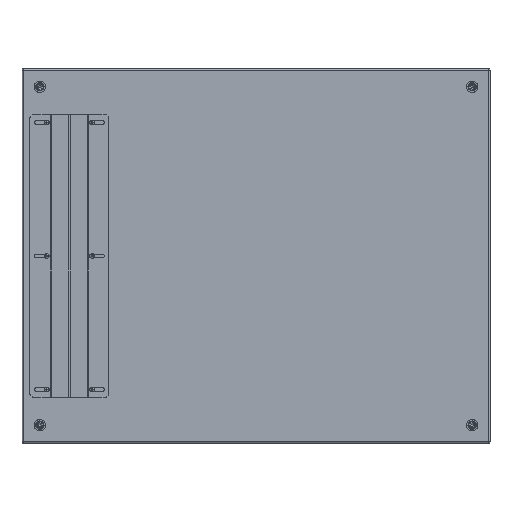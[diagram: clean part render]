
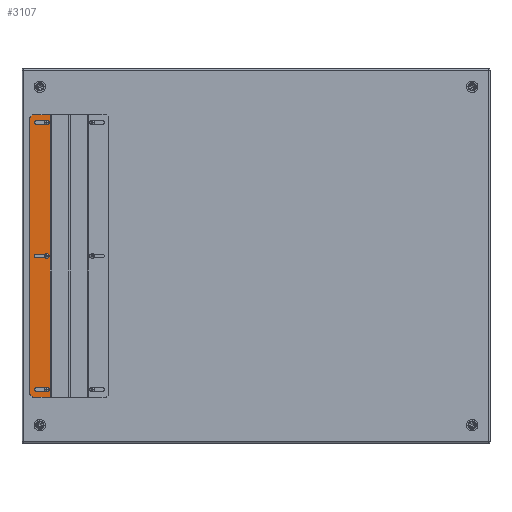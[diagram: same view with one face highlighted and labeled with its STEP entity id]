
A CAD part, top view. The second image highlights one B-rep face of the part: STEP entity #3107.
In plain terms, the highlighted planar face has unit normal (0, 0, 1).
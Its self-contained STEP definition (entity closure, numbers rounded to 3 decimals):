
#3107=ADVANCED_FACE('',(#19048,#19050,#19052,#19054),#19056,.T.);
#19048=FACE_BOUND('',#19049,.T.);
#19049=EDGE_LOOP('',(#27985,#27986,#27987,#27988,#27989,#27990,#27991,#27992,#27993,
#27994));
#19050=FACE_BOUND('',#19051,.T.);
#19051=EDGE_LOOP('',(#27995,#27996,#27997,#27998));
#19052=FACE_BOUND('',#19053,.T.);
#19053=EDGE_LOOP('',(#27999,#28000,#28001,#28002));
#19054=FACE_BOUND('',#19055,.T.);
#19055=EDGE_LOOP('',(#28003,#28004,#28005,#28006));
#19056=PLANE('',#19057);
#19057=AXIS2_PLACEMENT_3D('',#19058,#19059,#19060);
#19058=CARTESIAN_POINT('',(-2.8,301.,0.));
#19059=DIRECTION('',(0.,0.,1.));
#19060=DIRECTION('',(-1.,0.,0.));
#27985=ORIENTED_EDGE('',*,*,#32503,.F.);
#27986=ORIENTED_EDGE('',*,*,#32504,.T.);
#27987=ORIENTED_EDGE('',*,*,#32505,.F.);
#27988=ORIENTED_EDGE('',*,*,#32506,.F.);
#27989=ORIENTED_EDGE('',*,*,#32507,.F.);
#27990=ORIENTED_EDGE('',*,*,#32508,.F.);
#27991=ORIENTED_EDGE('',*,*,#32509,.F.);
#27992=ORIENTED_EDGE('',*,*,#32510,.T.);
#27993=ORIENTED_EDGE('',*,*,#32511,.F.);
#27994=ORIENTED_EDGE('',*,*,#32512,.F.);
#27995=ORIENTED_EDGE('',*,*,#32513,.T.);
#27996=ORIENTED_EDGE('',*,*,#32514,.T.);
#27997=ORIENTED_EDGE('',*,*,#32515,.T.);
#27998=ORIENTED_EDGE('',*,*,#32516,.T.);
#27999=ORIENTED_EDGE('',*,*,#32517,.T.);
#28000=ORIENTED_EDGE('',*,*,#32518,.T.);
#28001=ORIENTED_EDGE('',*,*,#32519,.T.);
#28002=ORIENTED_EDGE('',*,*,#32520,.T.);
#28003=ORIENTED_EDGE('',*,*,#32521,.T.);
#28004=ORIENTED_EDGE('',*,*,#32522,.T.);
#28005=ORIENTED_EDGE('',*,*,#32523,.T.);
#28006=ORIENTED_EDGE('',*,*,#32524,.T.);
#32503=EDGE_CURVE('',#39813,#39814,#39815,.F.);
#32504=EDGE_CURVE('',#39813,#39816,#39817,.T.);
#32505=EDGE_CURVE('',#39818,#39816,#39819,.F.);
#32506=EDGE_CURVE('',#39820,#39818,#39821,.F.);
#32507=EDGE_CURVE('',#39822,#39820,#39823,.F.);
#32508=EDGE_CURVE('',#39824,#39822,#39825,.T.);
#32509=EDGE_CURVE('',#39826,#39824,#39827,.T.);
#32510=EDGE_CURVE('',#39826,#39828,#39829,.T.);
#32511=EDGE_CURVE('',#39830,#39828,#39831,.F.);
#32512=EDGE_CURVE('',#39814,#39830,#39832,.F.);
#32513=EDGE_CURVE('',#39833,#39834,#39835,.F.);
#32514=EDGE_CURVE('',#39834,#39836,#39837,.F.);
#32515=EDGE_CURVE('',#39836,#39838,#39839,.F.);
#32516=EDGE_CURVE('',#39838,#39833,#39840,.F.);
#32517=EDGE_CURVE('',#39841,#39842,#39843,.F.);
#32518=EDGE_CURVE('',#39842,#39844,#39845,.F.);
#32519=EDGE_CURVE('',#39844,#39846,#39847,.F.);
#32520=EDGE_CURVE('',#39846,#39841,#39848,.F.);
#32521=EDGE_CURVE('',#39849,#39850,#39851,.F.);
#32522=EDGE_CURVE('',#39850,#39852,#39853,.F.);
#32523=EDGE_CURVE('',#39852,#39854,#39855,.F.);
#32524=EDGE_CURVE('',#39854,#39849,#39856,.F.);
#39813=VERTEX_POINT('',#57935);
#39814=VERTEX_POINT('',#57936);
#39815=CIRCLE('',#57937,2.);
#39816=VERTEX_POINT('',#57941);
#39817=LINE('',#57942,#57943);
#39818=VERTEX_POINT('',#57945);
#39819=CIRCLE('',#57946,2.);
#39820=VERTEX_POINT('',#57950);
#39821=LINE('',#57951,#57952);
#39822=VERTEX_POINT('',#57954);
#39823=CIRCLE('',#57955,2.);
#39824=VERTEX_POINT('',#57959);
#39825=LINE('',#57960,#57961);
#39826=VERTEX_POINT('',#57963);
#39827=LINE('',#57964,#57965);
#39828=VERTEX_POINT('',#57967);
#39829=LINE('',#57968,#57969);
#39830=VERTEX_POINT('',#57971);
#39831=CIRCLE('',#57972,2.);
#39832=LINE('',#57976,#57977);
#39833=VERTEX_POINT('',#57979);
#39834=VERTEX_POINT('',#57980);
#39835=CIRCLE('',#57981,3.5);
#39836=VERTEX_POINT('',#57985);
#39837=LINE('',#57986,#57987);
#39838=VERTEX_POINT('',#57989);
#39839=CIRCLE('',#57990,3.5);
#39840=LINE('',#57994,#57995);
#39841=VERTEX_POINT('',#57997);
#39842=VERTEX_POINT('',#57998);
#39843=LINE('',#57999,#58000);
#39844=VERTEX_POINT('',#58002);
#39845=CIRCLE('',#58003,3.5);
#39846=VERTEX_POINT('',#58007);
#39847=LINE('',#58008,#58009);
#39848=CIRCLE('',#58011,3.5);
#39849=VERTEX_POINT('',#58015);
#39850=VERTEX_POINT('',#58016);
#39851=CIRCLE('',#58017,3.5);
#39852=VERTEX_POINT('',#58021);
#39853=LINE('',#58022,#58023);
#39854=VERTEX_POINT('',#58025);
#39855=CIRCLE('',#58026,3.5);
#39856=LINE('',#58030,#58031);
#57935=CARTESIAN_POINT('',(-46.,295.172,0.));
#57936=CARTESIAN_POINT('',(-45.414,296.586,0.));
#57937=AXIS2_PLACEMENT_3D('',#57938,#57939,#57940);
#57938=CARTESIAN_POINT('',(-44.,295.172,0.));
#57939=DIRECTION('',(0.,0.,1.));
#57940=DIRECTION('',(-0.707,0.707,0.));
#57941=CARTESIAN_POINT('',(-46.,-295.172,0.));
#57942=CARTESIAN_POINT('',(-46.,295.172,0.));
#57943=VECTOR('',#57944,1.);
#57944=DIRECTION('',(0.,-1.,0.));
#57945=CARTESIAN_POINT('',(-45.414,-296.586,0.));
#57946=AXIS2_PLACEMENT_3D('',#57947,#57948,#57949);
#57947=CARTESIAN_POINT('',(-44.,-295.172,0.));
#57948=DIRECTION('',(0.,0.,1.));
#57949=DIRECTION('',(-1.,0.,0.));
#57950=CARTESIAN_POINT('',(-41.586,-300.414,0.));
#57951=CARTESIAN_POINT('',(-45.414,-296.586,0.));
#57952=VECTOR('',#57953,1.);
#57953=DIRECTION('',(0.707,-0.707,0.));
#57954=CARTESIAN_POINT('',(-40.172,-301.,0.));
#57955=AXIS2_PLACEMENT_3D('',#57956,#57957,#57958);
#57956=CARTESIAN_POINT('',(-40.172,-299.,0.));
#57957=DIRECTION('',(0.,0.,1.));
#57958=DIRECTION('',(-0.707,-0.707,0.));
#57959=CARTESIAN_POINT('',(-2.8,-301.,0.));
#57960=CARTESIAN_POINT('',(-2.8,-301.,0.));
#57961=VECTOR('',#57962,1.);
#57962=DIRECTION('',(-1.,0.,0.));
#57963=CARTESIAN_POINT('',(-2.8,301.,0.));
#57964=CARTESIAN_POINT('',(-2.8,301.,0.));
#57965=VECTOR('',#57966,1.);
#57966=DIRECTION('',(0.,-1.,0.));
#57967=CARTESIAN_POINT('',(-40.172,301.,0.));
#57968=CARTESIAN_POINT('',(-2.8,301.,0.));
#57969=VECTOR('',#57970,1.);
#57970=DIRECTION('',(-1.,0.,0.));
#57971=CARTESIAN_POINT('',(-41.586,300.414,0.));
#57972=AXIS2_PLACEMENT_3D('',#57973,#57974,#57975);
#57973=CARTESIAN_POINT('',(-40.172,299.,0.));
#57974=DIRECTION('',(0.,0.,1.));
#57975=DIRECTION('',(0.,1.,0.));
#57976=CARTESIAN_POINT('',(-41.586,300.414,0.));
#57977=VECTOR('',#57978,1.);
#57978=DIRECTION('',(-0.707,-0.707,0.));
#57979=CARTESIAN_POINT('',(-33.,-288.,0.));
#57980=CARTESIAN_POINT('',(-33.,-281.,0.));
#57981=AXIS2_PLACEMENT_3D('',#57982,#57983,#57984);
#57982=CARTESIAN_POINT('',(-33.,-284.5,0.));
#57983=DIRECTION('',(0.,0.,1.));
#57984=DIRECTION('',(0.,1.,0.));
#57985=CARTESIAN_POINT('',(-8.5,-281.,0.));
#57986=CARTESIAN_POINT('',(-8.5,-281.,0.));
#57987=VECTOR('',#57988,1.);
#57988=DIRECTION('',(-1.,0.,0.));
#57989=CARTESIAN_POINT('',(-8.5,-288.,0.));
#57990=AXIS2_PLACEMENT_3D('',#57991,#57992,#57993);
#57991=CARTESIAN_POINT('',(-8.5,-284.5,0.));
#57992=DIRECTION('',(0.,0.,1.));
#57993=DIRECTION('',(0.,-1.,0.));
#57994=CARTESIAN_POINT('',(-33.,-288.,0.));
#57995=VECTOR('',#57996,1.);
#57996=DIRECTION('',(1.,0.,0.));
#57997=CARTESIAN_POINT('',(-8.5,281.,0.));
#57998=CARTESIAN_POINT('',(-33.,281.,0.));
#57999=CARTESIAN_POINT('',(-33.,281.,0.));
#58000=VECTOR('',#58001,1.);
#58001=DIRECTION('',(1.,0.,0.));
#58002=CARTESIAN_POINT('',(-33.,288.,0.));
#58003=AXIS2_PLACEMENT_3D('',#58004,#58005,#58006);
#58004=CARTESIAN_POINT('',(-33.,284.5,0.));
#58005=DIRECTION('',(0.,0.,1.));
#58006=DIRECTION('',(0.,1.,0.));
#58007=CARTESIAN_POINT('',(-8.5,288.,0.));
#58008=CARTESIAN_POINT('',(-8.5,288.,0.));
#58009=VECTOR('',#58010,1.);
#58010=DIRECTION('',(-1.,0.,0.));
#58011=AXIS2_PLACEMENT_3D('',#58012,#58013,#58014);
#58012=CARTESIAN_POINT('',(-8.5,284.5,0.));
#58013=DIRECTION('',(0.,0.,1.));
#58014=DIRECTION('',(0.,-1.,0.));
#58015=CARTESIAN_POINT('',(-33.,-3.5,0.));
#58016=CARTESIAN_POINT('',(-33.,3.5,0.));
#58017=AXIS2_PLACEMENT_3D('',#58018,#58019,#58020);
#58018=CARTESIAN_POINT('',(-33.,0.,0.));
#58019=DIRECTION('',(0.,0.,1.));
#58020=DIRECTION('',(0.,1.,0.));
#58021=CARTESIAN_POINT('',(-8.5,3.5,0.));
#58022=CARTESIAN_POINT('',(-8.5,3.5,0.));
#58023=VECTOR('',#58024,1.);
#58024=DIRECTION('',(-1.,0.,0.));
#58025=CARTESIAN_POINT('',(-8.5,-3.5,0.));
#58026=AXIS2_PLACEMENT_3D('',#58027,#58028,#58029);
#58027=CARTESIAN_POINT('',(-8.5,0.,0.));
#58028=DIRECTION('',(0.,0.,1.));
#58029=DIRECTION('',(0.,-1.,0.));
#58030=CARTESIAN_POINT('',(-33.,-3.5,0.));
#58031=VECTOR('',#58032,1.);
#58032=DIRECTION('',(1.,0.,0.));
